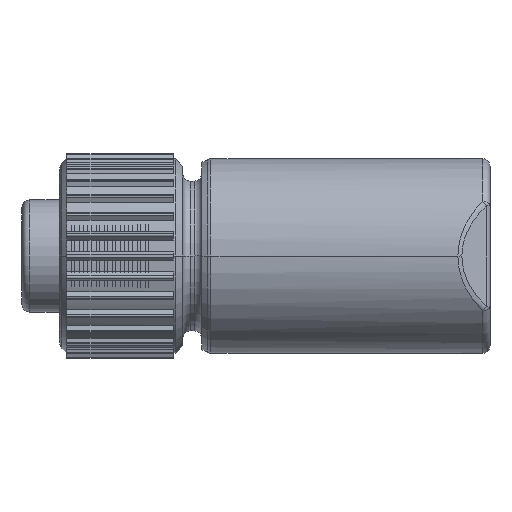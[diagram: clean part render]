
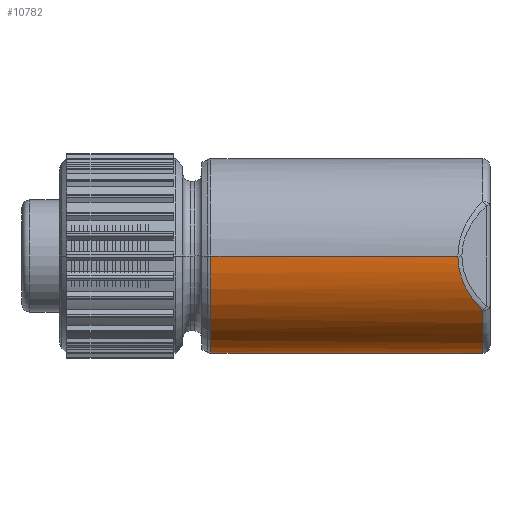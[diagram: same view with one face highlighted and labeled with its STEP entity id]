
A CAD part, front view. The second image highlights one B-rep face of the part: STEP entity #10782.
In plain terms, the highlighted cylindrical face has radius 6.604 mm (diameter 13.208 mm), a partial arc.
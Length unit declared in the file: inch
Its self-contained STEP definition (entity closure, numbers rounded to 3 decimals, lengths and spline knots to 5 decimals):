
#3166=CARTESIAN_POINT('',(0.40472,0.,0.));
#3167=DIRECTION('',(-1.,0.,0.));
#3168=DIRECTION('',(0.,1.,0.));
#3169=AXIS2_PLACEMENT_3D('',#3166,#3167,#3168);
#3171=DIRECTION('',(-1.,0.,0.));
#3172=VECTOR('',#3171,0.65954);
#3173=CARTESIAN_POINT('',(1.06426,-0.26,
0.));
#3174=LINE('',#3173,#3172);
#3175=CARTESIAN_POINT('',(1.13,-0.21549,
-0.14548));
#3176=CARTESIAN_POINT('',(1.12622,-0.21805,
-0.14169));
#3177=CARTESIAN_POINT('',(1.11835,-0.22338,
-0.13337));
#3178=CARTESIAN_POINT('',(1.10608,-0.23169,
-0.11846));
#3179=CARTESIAN_POINT('',(1.09334,-0.24031,
-0.1001));
#3180=CARTESIAN_POINT('',(1.08101,-0.24866,
-0.07731));
#3181=CARTESIAN_POINT('',(1.07168,-0.25498,
-0.05294));
#3182=CARTESIAN_POINT('',(1.06568,-0.25904,
-0.02708));
#3183=CARTESIAN_POINT('',(1.06427,-0.26,
-0.00912));
#3184=CARTESIAN_POINT('',(1.06426,-0.26,
0.));
#3186=CARTESIAN_POINT('',(1.13,0.,0.));
#3187=DIRECTION('',(-1.,0.,0.));
#3188=DIRECTION('',(0.,1.,0.));
#3189=AXIS2_PLACEMENT_3D('',#3186,#3187,#3188);
#3191=DIRECTION('',(-1.,0.,0.));
#3192=VECTOR('',#3191,0.04742);
#3193=CARTESIAN_POINT('',(1.13,0.26,0.));
#3194=LINE('',#3193,#3192);
#3195=CARTESIAN_POINT('',(1.08258,0.26,0.));
#3196=CARTESIAN_POINT('',(1.08258,0.26,-0.01042));
#3197=CARTESIAN_POINT('',(1.08128,0.25876,
-0.03179));
#3198=CARTESIAN_POINT('',(1.0746,0.25242,
-0.06544));
#3199=CARTESIAN_POINT('',(1.06305,0.2415,
-0.09842));
#3200=CARTESIAN_POINT('',(1.04648,0.22594,
-0.13032));
#3201=CARTESIAN_POINT('',(1.02522,0.20621,
-0.15951));
#3202=CARTESIAN_POINT('',(1.00312,0.1861,
-0.18228));
#3203=CARTESIAN_POINT('',(0.98113,0.16665,
-0.20007));
#3204=CARTESIAN_POINT('',(0.95965,0.14838,
-0.21385));
#3205=CARTESIAN_POINT('',(0.93893,0.13183,
-0.22434));
#3206=CARTESIAN_POINT('',(0.91927,0.11754,
-0.23206));
#3207=CARTESIAN_POINT('',(0.90052,0.10585,
-0.23757));
#3208=CARTESIAN_POINT('',(0.88237,0.09715,
-0.24121));
#3209=CARTESIAN_POINT('',(0.86524,0.09226,
-0.24309));
#3210=CARTESIAN_POINT('',(0.84914,0.09096,
-0.24357));
#3211=CARTESIAN_POINT('',(0.83034,0.09392,
-0.24246));
#3212=CARTESIAN_POINT('',(0.81173,0.10128,
-0.23953));
#3213=CARTESIAN_POINT('',(0.79326,0.11166,
-0.23492));
#3214=CARTESIAN_POINT('',(0.77497,0.12413,
-0.22862));
#3215=CARTESIAN_POINT('',(0.75702,0.13779,
-0.2207));
#3216=CARTESIAN_POINT('',(0.73862,0.15281,
-0.21065));
#3217=CARTESIAN_POINT('',(0.71948,0.16921,
-0.19783));
#3218=CARTESIAN_POINT('',(0.69931,0.18711,
-0.18116));
#3219=CARTESIAN_POINT('',(0.67825,0.20627,
-0.15939));
#3220=CARTESIAN_POINT('',(0.65699,0.22599,
-0.13024));
#3221=CARTESIAN_POINT('',(0.64047,0.24151,
-0.09838));
#3222=CARTESIAN_POINT('',(0.62893,0.25242,
-0.06543));
#3223=CARTESIAN_POINT('',(0.62225,0.25876,
-0.03182));
#3224=CARTESIAN_POINT('',(0.62095,0.26,-0.01043));
#3225=CARTESIAN_POINT('',(0.62095,0.26,0.));
#3227=DIRECTION('',(-1.,0.,0.));
#3228=VECTOR('',#3227,0.21623);
#3229=CARTESIAN_POINT('',(0.62095,0.26,0.));
#3230=LINE('',#3229,#3228);
#5247=CARTESIAN_POINT('',(0.40472,-0.26,0.));
#5248=CARTESIAN_POINT('',(0.40472,0.26,0.));
#5249=VERTEX_POINT('',#5247);
#5250=VERTEX_POINT('',#5248);
#5251=CARTESIAN_POINT('',(0.62095,0.26,0.));
#5252=VERTEX_POINT('',#5251);
#5253=CARTESIAN_POINT('',(1.06426,-0.26,
0.));
#5254=VERTEX_POINT('',#5253);
#5255=CARTESIAN_POINT('',(1.13,0.26,0.));
#5256=CARTESIAN_POINT('',(1.13,-0.21549,-0.14547));
#5257=VERTEX_POINT('',#5255);
#5258=VERTEX_POINT('',#5256);
#5270=CARTESIAN_POINT('',(1.08258,0.26,0.));
#5271=VERTEX_POINT('',#5270);
#10762=CARTESIAN_POINT('',(-4.33492,0.,0.));
#10763=DIRECTION('',(1.,0.,0.));
#10764=DIRECTION('',(0.,-1.,0.));
#10765=AXIS2_PLACEMENT_3D('',#10762,#10763,#10764);
#10766=CYLINDRICAL_SURFACE('',#10765,0.26);
#10767=ORIENTED_EDGE('',*,*,#10744,.T.);
#10769=ORIENTED_EDGE('',*,*,#10768,.F.);
#10771=ORIENTED_EDGE('',*,*,#10770,.F.);
#10773=ORIENTED_EDGE('',*,*,#10772,.F.);
#10775=ORIENTED_EDGE('',*,*,#10774,.T.);
#10777=ORIENTED_EDGE('',*,*,#10776,.T.);
#10779=ORIENTED_EDGE('',*,*,#10778,.T.);
#10780=EDGE_LOOP('',(#10767,#10769,#10771,#10773,#10775,#10777,#10779));
#10781=FACE_OUTER_BOUND('',#10780,.F.);
#10782=ADVANCED_FACE('',(#10781),#10766,.T.);
#3170=CIRCLE('',#3169,0.26);
#3185=B_SPLINE_CURVE_WITH_KNOTS('',3,(#3175,#3176,#3177,#3178,#3179,#3180,#3181,
#3182,#3183,#3184),.UNSPECIFIED.,.F.,.F.,(4,1,1,1,1,1,1,4),(0.,
0.14286,0.28571,0.42857,0.57143,
0.71429,0.85714,1.),.UNSPECIFIED.);
#3190=CIRCLE('',#3189,0.26);
#3226=B_SPLINE_CURVE_WITH_KNOTS('',3,(#3195,#3196,#3197,#3198,#3199,#3200,#3201,
#3202,#3203,#3204,#3205,#3206,#3207,#3208,#3209,#3210,#3211,#3212,#3213,#3214,
#3215,#3216,#3217,#3218,#3219,#3220,#3221,#3222,#3223,#3224,#3225),
.UNSPECIFIED.,.F.,.F.,(4,1,1,1,1,1,1,1,1,1,1,1,1,1,1,1,1,1,1,1,1,1,1,1,1,1,1,1,
4),(0.,0.03571,0.07143,0.10714,
0.14286,0.17857,0.21429,0.25,0.28571,
0.32143,0.35714,0.39286,0.42857,
0.46429,0.5,0.53571,0.57143,0.60714,
0.64286,0.67857,0.71429,0.75,0.78571,
0.82143,0.85714,0.89286,0.92857,
0.96429,1.),.UNSPECIFIED.);
#10744=EDGE_CURVE('',#5250,#5249,#3170,.T.);
#10768=EDGE_CURVE('',#5254,#5249,#3174,.T.);
#10770=EDGE_CURVE('',#5258,#5254,#3185,.T.);
#10772=EDGE_CURVE('',#5257,#5258,#3190,.T.);
#10774=EDGE_CURVE('',#5257,#5271,#3194,.T.);
#10776=EDGE_CURVE('',#5271,#5252,#3226,.T.);
#10778=EDGE_CURVE('',#5252,#5250,#3230,.T.);
